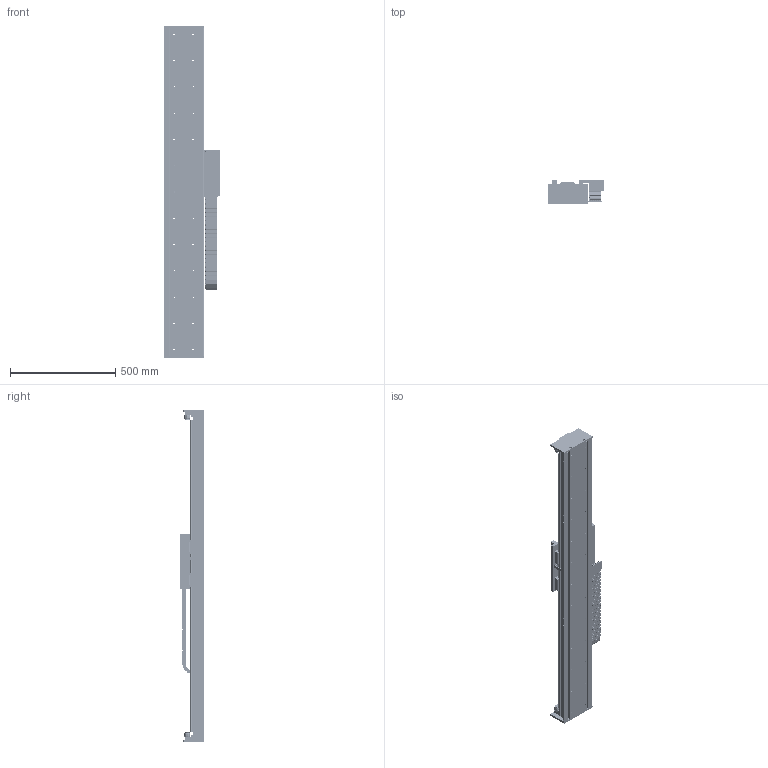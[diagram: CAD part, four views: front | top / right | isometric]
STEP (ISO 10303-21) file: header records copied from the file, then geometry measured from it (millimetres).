
FILE_DESCRIPTION (( 'STEP AP203' ), '1' );
FILE_NAME ('STF50200H-xC1B-Axx.STEP', '2007-10-29T13:55:32', ( 'Yaskawa' ), ( 'Yaskawa' ), 'SwSTEP 2.0', 'SolidWorks 2007', '' );
FILE_SCHEMA (( 'CONFIG_CONTROL_DESIGN' ));
Length unit declared in the file: millimetre
Products named in the file (56): STF50-0200-R1 Carriage; SSR20 Rail 820_1480; STCM-003 Cable Assembly Bottom; STF50-002A-R1 F50-200 Carriage Horn; RGH22B; STF50200H; STCM-004 Cable Assembly Side; STCM-005-R1 Cable Assembly Cover; 07.50.038.0_20; 07.50.038.0_27; 07.50.038.0_24; 07.50.038.0_25; 07.50.038.0_35; 07.50.038.0_36; 07.50.038.0_41; 07.50.038.0_42; 07.50.038.0_43; 07.50.038.0_32; 07.50.038.0_31; SGLFM-50405AC; STF50200H-xC1B-Axx; STF50200 Base_STF50BM-008; SGLFM-50675AC; STF50 Large End Stop; STF50-007 End Stop; Large Bumper; STF50-001A F50-200 Carriage; SGLFW-50A200AP; SSR20W Block; STF50-003 Renishaw Encoder Bracket; STF50-004 Flag; STF50-005-R2 Cable Router; STCM-R1; STCM-001-R2 Cable Bracket; STCM-002-R2 Cable Assembly Front; STCM-006-R1 Upper E-chain Bracket; Serial Converter; STF50-006 Endplate; STCM-007 Lower E-Chain Bracket; 07.50.038.0_28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
Assembly tree (85 placements, depth 4):
  STF50200H-xC1B-Axx
    STF50200 Base_STF50BM-008
    STF50 Large End Stop  x4
      Large Bumper
      STF50-007 End Stop
    STF50200H
      07.50.038.0_25
      07.50.038.0_30
      07.50.038.0_43
      07.50.038.0_32  x12
      07.50.038.0_31  x10
      07.50.038.0_45
      07.50.038.0_20
      07.50.038.0_33
      07.50.038.0_41
      07.50.038.0_22
      07.50.038.0_39
      07.50.038.0_28
      07.50.038.0_46
      07.50.038.0_27
      07.50.038.0_42
      07.50.038.0_23
      07.50.038.0_24
      07.50.038.0_40
      07.50.038.0_29
      07.50.038.0_47
      07.50.038.0_44
      07.50.038.0_21
      07.50.038.0_35
      07.50.038.0_26
      07.50.038.0_36
      07.50.038.0_34
      07.50.038.0_37
      07.50.038.0_38
    SSR20 Rail 820_1480  x2
    STF50-006 Endplate  x2
    SGLFM-50675AC
    STF50-0200-R1 Carriage
      SGLFW-50A200AP
      SSR20W Block  x4
      STCM-R1
        STCM-002-R2 Cable Assembly Front
        STCM-001-R2 Cable Bracket
        STCM-004 Cable Assembly Side
        Serial Converter
        STCM-005-R1 Cable Assembly Cover
        STCM-003 Cable Assembly Bottom
        STCM-006-R1 Upper E-chain Bracket
      STF50-005-R2 Cable Router
      STF50-002A-R1 F50-200 Carriage Horn  x2
      RGH22B
      STF50-004 Flag
      STF50-001A F50-200 Carriage
      STF50-003 Renishaw Encoder Bracket
    SGLFM-50405AC  x2
    STCM-007 Lower E-Chain Bracket
Bounding box: 269.74 x 115 x 1579.05 mm (x, y, z)
Volume: 11904661.7 mm3; surface area: 2667087.7 mm2
Topology: 130 solids, 130 shells, 6224 faces, 16419 edges, 10516 vertices
Faces by surface type: plane 3165, cylinder 2595, cone 452, bspline 8, torus 4
Entity records: 134662 total; most frequent: DIRECTION 22816, CARTESIAN_POINT 22254, ORIENTED_EDGE 21184, EDGE_CURVE 10592, AXIS2_PLACEMENT_3D 8014, VERTEX_POINT 6942, VECTOR 6788, LINE 6788
